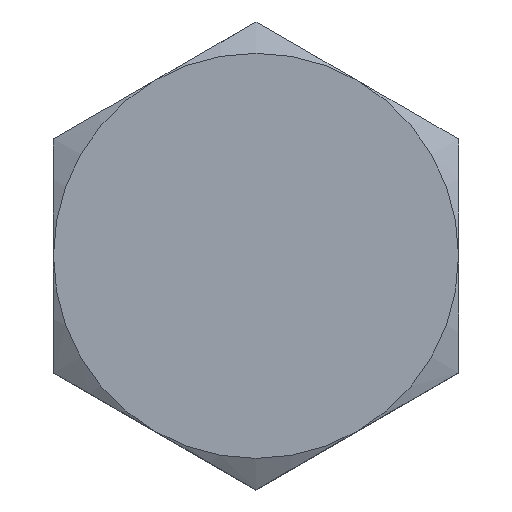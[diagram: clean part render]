
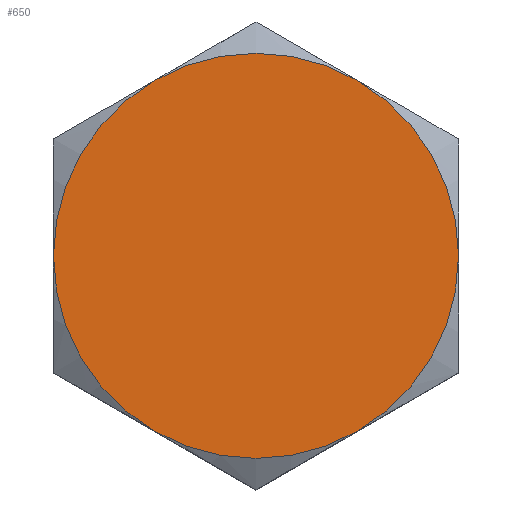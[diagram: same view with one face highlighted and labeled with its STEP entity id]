
A CAD part, top view. The second image highlights one B-rep face of the part: STEP entity #650.
In plain terms, the highlighted planar face has unit normal (0, 0, 1).
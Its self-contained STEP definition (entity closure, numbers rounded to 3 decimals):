
#358=CARTESIAN_POINT('Vertex',(3.5,0.,2.7)) ;
#409=CARTESIAN_POINT('Vertex',(1.75,-3.031,2.7)) ;
#453=CARTESIAN_POINT('Vertex',(-1.75,-3.031,2.7)) ;
#497=CARTESIAN_POINT('Vertex',(-3.5,0.,2.7)) ;
#541=CARTESIAN_POINT('Vertex',(-1.75,3.031,2.7)) ;
#585=CARTESIAN_POINT('Vertex',(1.75,3.031,2.7)) ;
#607=CARTESIAN_POINT('Axis2P3D Location',(0.,0.,2.7)) ;
#612=CARTESIAN_POINT('Axis2P3D Location',(0.,0.,2.7)) ;
#617=CARTESIAN_POINT('Axis2P3D Location',(0.,0.,2.7)) ;
#622=CARTESIAN_POINT('Axis2P3D Location',(0.,0.,2.7)) ;
#627=CARTESIAN_POINT('Axis2P3D Location',(0.,0.,2.7)) ;
#632=CARTESIAN_POINT('Axis2P3D Location',(0.,0.,2.7)) ;
#637=CARTESIAN_POINT('Axis2P3D Location',(0.,0.,2.7)) ;
#608=DIRECTION('Axis2P3D Direction',(0.,0.,1.)) ;
#609=DIRECTION('Axis2P3D XDirection',(1.,0.,0.)) ;
#613=DIRECTION('Axis2P3D Direction',(0.,0.,1.)) ;
#618=DIRECTION('Axis2P3D Direction',(0.,0.,1.)) ;
#623=DIRECTION('Axis2P3D Direction',(0.,0.,1.)) ;
#628=DIRECTION('Axis2P3D Direction',(0.,0.,1.)) ;
#633=DIRECTION('Axis2P3D Direction',(0.,0.,1.)) ;
#638=DIRECTION('Axis2P3D Direction',(0.,0.,1.)) ;
#610=AXIS2_PLACEMENT_3D('Plane Axis2P3D',#607,#608,#609) ;
#614=AXIS2_PLACEMENT_3D('Circle Axis2P3D',#612,#613,$) ;
#619=AXIS2_PLACEMENT_3D('Circle Axis2P3D',#617,#618,$) ;
#624=AXIS2_PLACEMENT_3D('Circle Axis2P3D',#622,#623,$) ;
#629=AXIS2_PLACEMENT_3D('Circle Axis2P3D',#627,#628,$) ;
#634=AXIS2_PLACEMENT_3D('Circle Axis2P3D',#632,#633,$) ;
#639=AXIS2_PLACEMENT_3D('Circle Axis2P3D',#637,#638,$) ;
#615=CIRCLE('generated circle',#614,3.5) ;
#620=CIRCLE('generated circle',#619,3.5) ;
#625=CIRCLE('generated circle',#624,3.5) ;
#630=CIRCLE('generated circle',#629,3.5) ;
#635=CIRCLE('generated circle',#634,3.5) ;
#640=CIRCLE('generated circle',#639,3.5) ;
#611=PLANE('',#610) ;
#616=EDGE_CURVE('',#454,#498,#615,.F.) ;
#621=EDGE_CURVE('',#410,#454,#620,.F.) ;
#626=EDGE_CURVE('',#359,#410,#625,.F.) ;
#631=EDGE_CURVE('',#586,#359,#630,.F.) ;
#636=EDGE_CURVE('',#542,#586,#635,.F.) ;
#641=EDGE_CURVE('',#498,#542,#640,.F.) ;
#642=EDGE_LOOP('',(#643,#644,#645,#646,#647,#648)) ;
#643=ORIENTED_EDGE('',*,*,#616,.F.) ;
#644=ORIENTED_EDGE('',*,*,#621,.F.) ;
#645=ORIENTED_EDGE('',*,*,#626,.F.) ;
#646=ORIENTED_EDGE('',*,*,#631,.F.) ;
#647=ORIENTED_EDGE('',*,*,#636,.F.) ;
#648=ORIENTED_EDGE('',*,*,#641,.F.) ;
#359=VERTEX_POINT('',#358) ;
#410=VERTEX_POINT('',#409) ;
#454=VERTEX_POINT('',#453) ;
#498=VERTEX_POINT('',#497) ;
#542=VERTEX_POINT('',#541) ;
#586=VERTEX_POINT('',#585) ;
#650=ADVANCED_FACE('Corps principal',(#649),#611,.T.) ;
#649=FACE_OUTER_BOUND('',#642,.T.) ;
